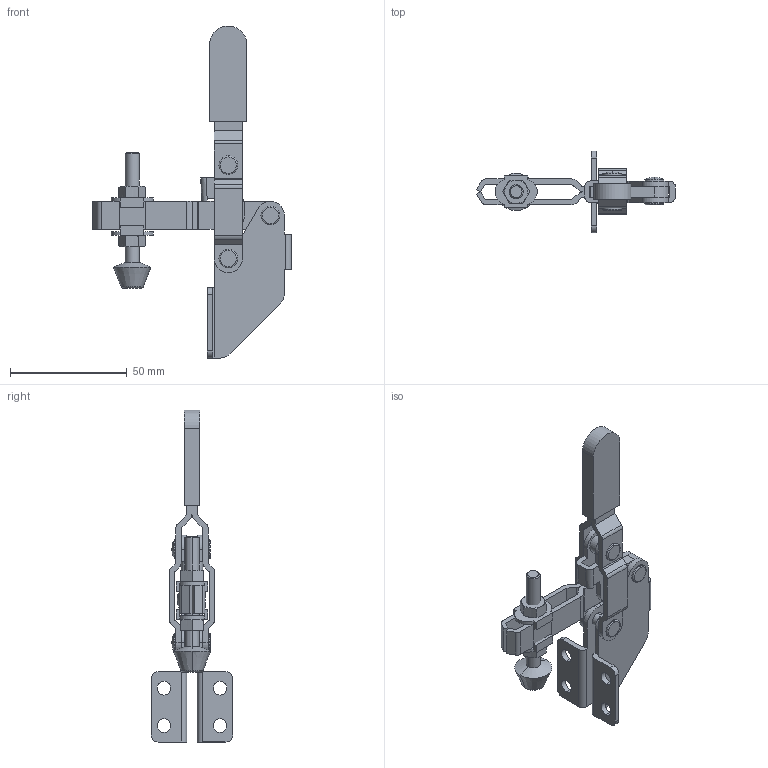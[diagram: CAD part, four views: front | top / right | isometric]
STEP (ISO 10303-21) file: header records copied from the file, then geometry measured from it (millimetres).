
FILE_DESCRIPTION(('CATIA V5 STEP Exchange'),'2;1');
FILE_NAME('D:\Model\toggle\toggle_standard\KJF_010_11A.stp','2005-06-24T04:48:56+00:00',('none'),('none'),'CATIA Version 5 Release 11 (IN-9)','CATIA V5 STEP AP203',' none');
FILE_SCHEMA(('CONFIG_CONTROL_DESIGN'));
Length unit declared in the file: millimetre
Products named in the file (1): Part1
Bounding box: 85 x 35 x 142 mm (x, y, z)
Volume: 27997.3 mm3; surface area: 25242.3 mm2
Topology: 13 solids, 13 shells, 358 faces, 941 edges, 610 vertices
Faces by surface type: plane 163, cylinder 141, cone 36, torus 10, sphere 8
Entity records: 10742 total; most frequent: CARTESIAN_POINT 2439, ORIENTED_EDGE 1866, DIRECTION 1355, EDGE_CURVE 933, VERTEX_POINT 612, AXIS2_PLACEMENT_3D 588, VECTOR 519, LINE 519
